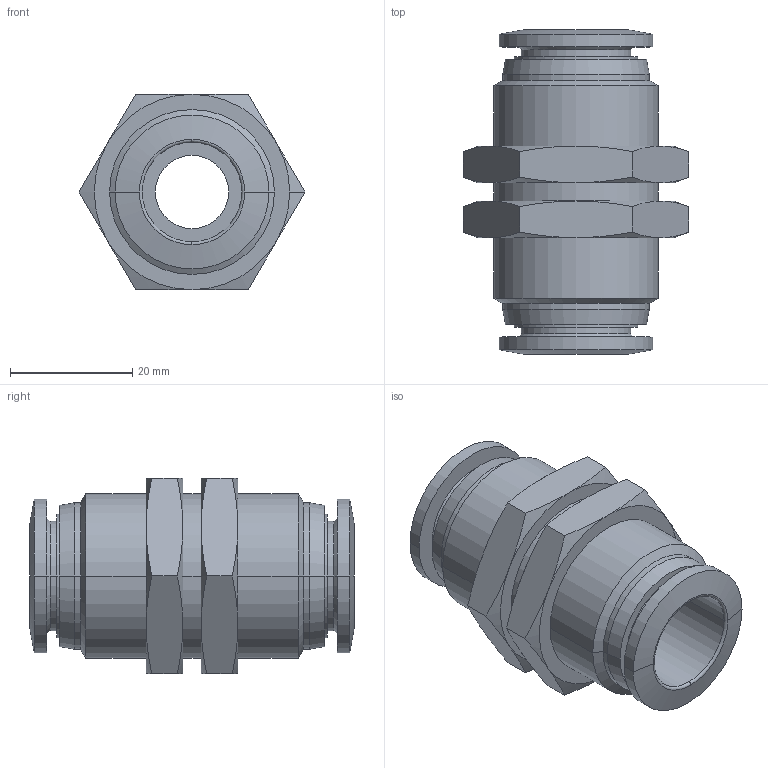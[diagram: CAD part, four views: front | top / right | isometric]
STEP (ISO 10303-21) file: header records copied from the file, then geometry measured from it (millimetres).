
FILE_DESCRIPTION (( 'STEP AP203' ), '1' );
FILE_NAME ('FE16-00.STEP', '2020-05-12T14:04:38', ( '' ), ( '' ), 'SwSTEP 2.0', 'SolidWorks 2019', '' );
FILE_SCHEMA (( 'CONFIG_CONTROL_DESIGN' ));
Length unit declared in the file: millimetre
Products named in the file (1): FE16-00
Bounding box: 36.95 x 53.1 x 32 mm (x, y, z)
Volume: 20646.4 mm3; surface area: 9966.2 mm2
Topology: 1 solids, 1 shells, 100 faces, 216 edges, 128 vertices
Faces by surface type: cone 44, cylinder 28, plane 24, torus 4
Entity records: 2737 total; most frequent: CARTESIAN_POINT 541, DIRECTION 478, ORIENTED_EDGE 432, EDGE_CURVE 216, AXIS2_PLACEMENT_3D 209, VERTEX_POINT 128, EDGE_LOOP 112, CIRCLE 108
